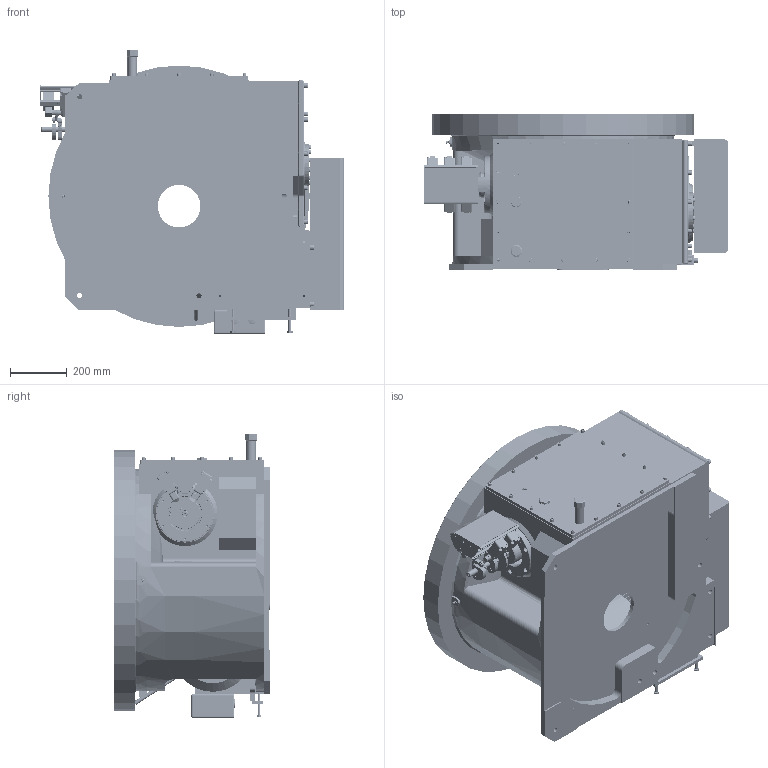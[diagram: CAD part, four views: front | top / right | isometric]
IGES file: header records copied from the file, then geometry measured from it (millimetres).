
Start section:  PTC IGES file: a5160.igs
Global section: file name: a5160.igs; native system: Pro/ENGINEER by Parametric Technology Corporation; preprocessor: 2001040; author: Mueller; organization: Unknown; date: 040917.140513; units: millimetre
Bounding box: 1072.1 x 550 x 1002 mm (x, y, z)
Surface area: 10208621.3 mm2 (no closed solid volume)
Topology: 0 solids, 0 shells, 3007 faces, 26114 edges, 26025 vertices
Faces by surface type: bspline 1662, revolution 1345
